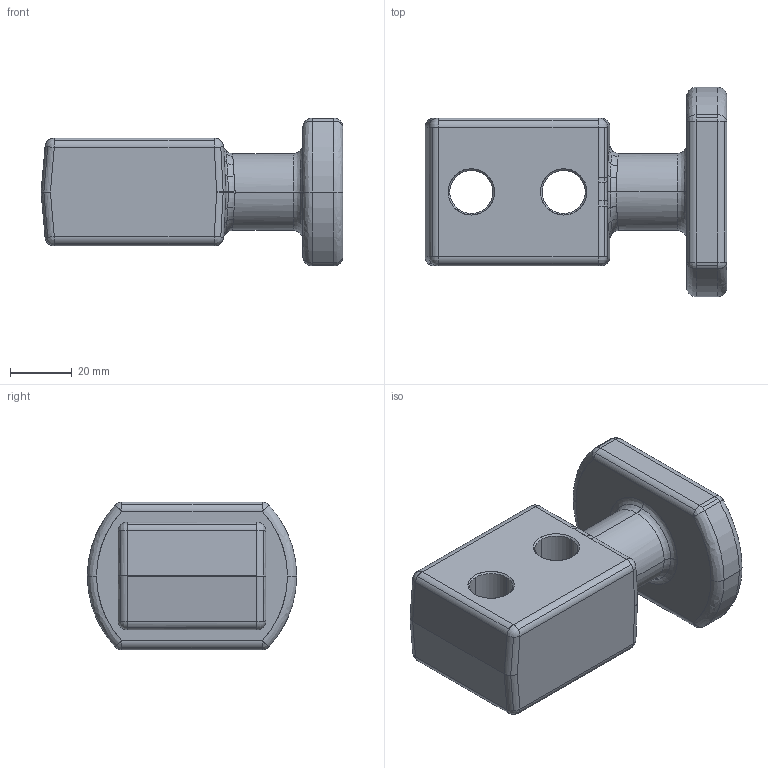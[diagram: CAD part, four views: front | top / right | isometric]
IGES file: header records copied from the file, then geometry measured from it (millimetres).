
Global section: file name: E:\UnigraphicsGraphicData\MISUMI_PRESS-PARTS\IGES\3d_chpl25_03565_r00.igs; native system: NX V5.0; preprocessor: UGS NX IGES V5.0; author: MISUMI; date: 20110105.160235; units: millimetre
Bounding box: 98 x 68 x 48 mm (x, y, z)
Surface area: 23583.8 mm2 (no closed solid volume)
Topology: 0 solids, 0 shells, 182 faces, 906 edges, 888 vertices
Faces by surface type: bspline 182
